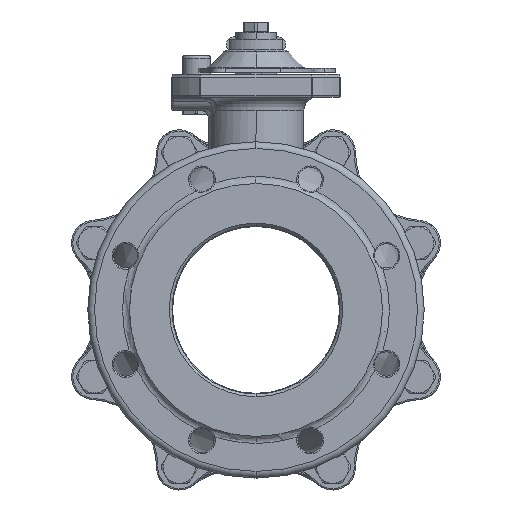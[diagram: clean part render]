
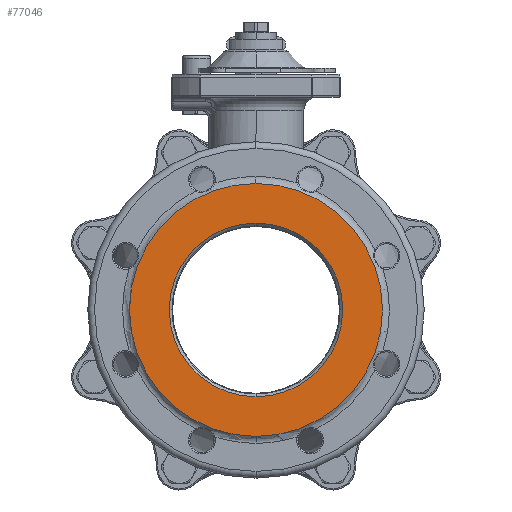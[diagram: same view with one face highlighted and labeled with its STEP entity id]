
A CAD part, left-side view. The second image highlights one B-rep face of the part: STEP entity #77046.
In plain terms, the highlighted planar face has unit normal (-1, 0, 0).
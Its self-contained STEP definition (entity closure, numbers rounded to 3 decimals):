
#11419=CARTESIAN_POINT('',(-125.,0.,0.));
#11420=DIRECTION('',(-1.,0.,0.));
#11421=DIRECTION('',(0.,0.,-1.));
#11422=AXIS2_PLACEMENT_3D('',#11419,#11420,#11421);
#11424=CARTESIAN_POINT('',(-125.,0.,0.));
#11425=DIRECTION('',(-1.,0.,0.));
#11426=DIRECTION('',(0.,0.,1.));
#11427=AXIS2_PLACEMENT_3D('',#11424,#11425,#11426);
#11429=CARTESIAN_POINT('',(-125.,0.,0.));
#11430=DIRECTION('',(-1.,0.,0.));
#11431=DIRECTION('',(0.,0.,1.));
#11432=AXIS2_PLACEMENT_3D('',#11429,#11430,#11431);
#11434=CARTESIAN_POINT('',(-125.,0.,0.));
#11435=DIRECTION('',(1.,0.,0.));
#11436=DIRECTION('',(0.,0.,1.));
#11437=AXIS2_PLACEMENT_3D('',#11434,#11435,#11436);
#50002=CARTESIAN_POINT('',(-125.,0.,64.5));
#50003=CARTESIAN_POINT('',(-125.,0.,-64.5));
#50004=VERTEX_POINT('',#50002);
#50005=VERTEX_POINT('',#50003);
#51832=CARTESIAN_POINT('',(-125.,0.,-94.));
#51833=CARTESIAN_POINT('',(-125.,0.,94.));
#51834=VERTEX_POINT('',#51832);
#51835=VERTEX_POINT('',#51833);
#77030=CARTESIAN_POINT('',(-125.,0.,0.));
#77031=DIRECTION('',(-1.,0.,0.));
#77032=DIRECTION('',(0.,0.,1.));
#77033=AXIS2_PLACEMENT_3D('',#77030,#77031,#77032);
#77034=PLANE('',#77033);
#77036=ORIENTED_EDGE('',*,*,#77035,.F.);
#77037=ORIENTED_EDGE('',*,*,#77005,.F.);
#77038=EDGE_LOOP('',(#77036,#77037));
#77039=FACE_OUTER_BOUND('',#77038,.F.);
#77041=ORIENTED_EDGE('',*,*,#77040,.T.);
#77043=ORIENTED_EDGE('',*,*,#77042,.F.);
#77044=EDGE_LOOP('',(#77041,#77043));
#77045=FACE_BOUND('',#77044,.F.);
#77046=ADVANCED_FACE('',(#77039,#77045),#77034,.T.);
#11423=CIRCLE('',#11422,94.);
#11428=CIRCLE('',#11427,94.);
#11433=CIRCLE('',#11432,64.5);
#11438=CIRCLE('',#11437,64.5);
#77005=EDGE_CURVE('',#51835,#51834,#11428,.T.);
#77035=EDGE_CURVE('',#51834,#51835,#11423,.T.);
#77040=EDGE_CURVE('',#50004,#50005,#11433,.T.);
#77042=EDGE_CURVE('',#50004,#50005,#11438,.T.);
